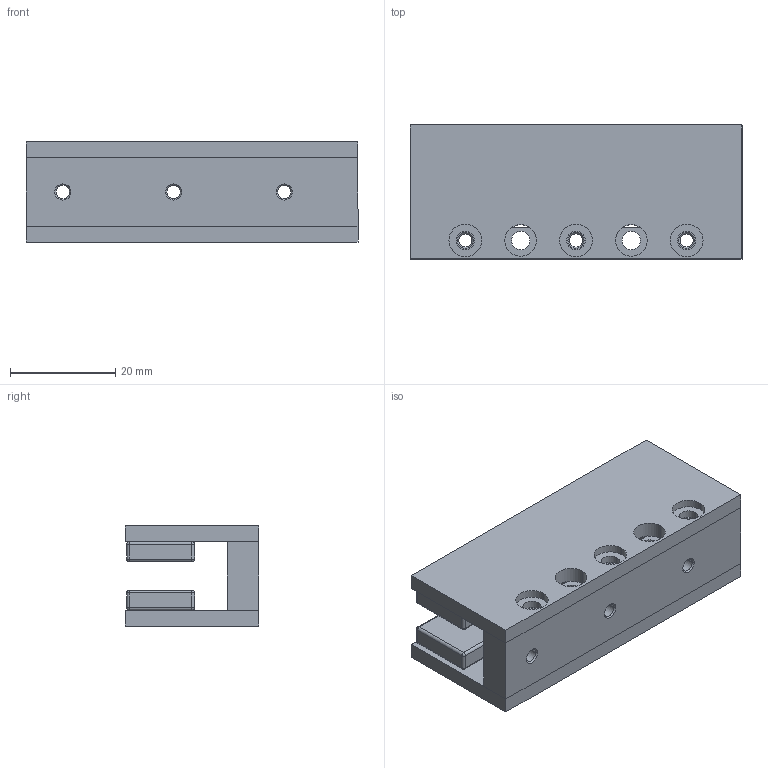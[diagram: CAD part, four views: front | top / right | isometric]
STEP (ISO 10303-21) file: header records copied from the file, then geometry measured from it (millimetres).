
FILE_DESCRIPTION (( 'STEP AP214' ), '1' );
FILE_NAME ('JKA1-63.STEP', '2025-09-05T12:25:32', ( '' ), ( '' ), 'SwSTEP 2.0', 'SolidWorks 2016', '' );
FILE_SCHEMA (( 'AUTOMOTIVE_DESIGN' ));
Length unit declared in the file: millimetre
Products named in the file (1): JKA1-63
Bounding box: 63 x 25.4 x 19 mm (x, y, z)
Surface area: 13795.2 mm2 (no closed solid volume)
Topology: 0 solids, 15 shells, 302 faces, 730 edges, 392 vertices
Faces by surface type: cylinder 158, plane 76, sphere 56, cone 12
Entity records: 11573 total; most frequent: DIRECTION 1608, CARTESIAN_POINT 1369, ORIENTED_EDGE 1224, EDGE_CURVE 674, AXIS2_PLACEMENT_3D 631, VERTEX_POINT 392, LINE 346, VECTOR 346
